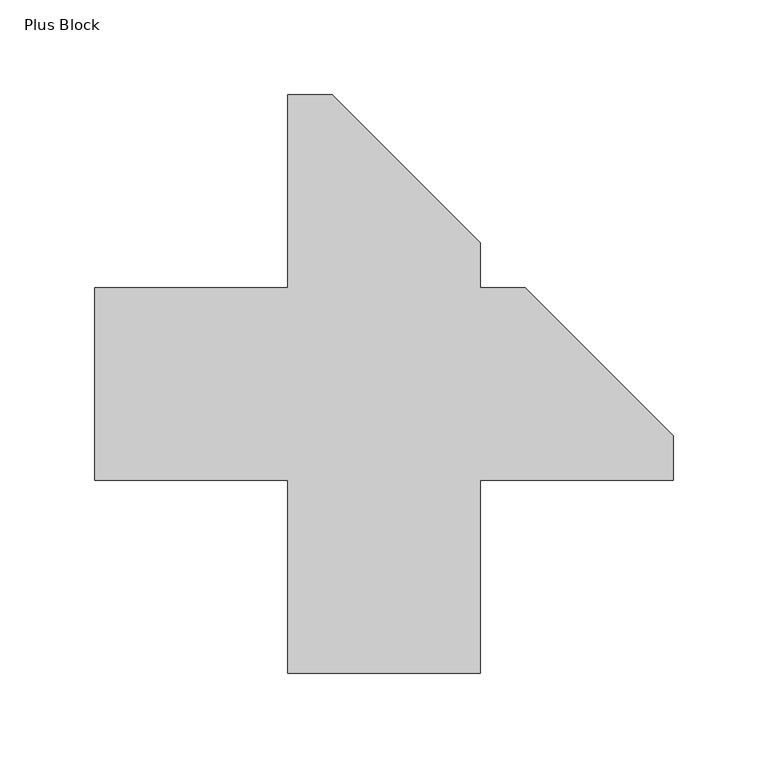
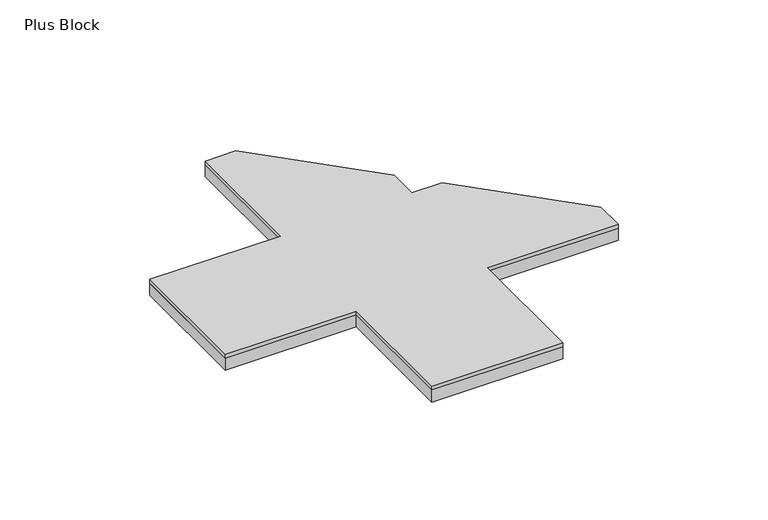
"""IFC4 building model written with IfcOpenShell, lengths in millimetres: proxy geometry, FilzFelt_Plus_Block : Plus Block."""

from ifc_helpers import new_model, si_unit, frame, origin, origin_with_axes, place, context, project, spatial, polyline, outline, extrude, source, transform, mapped, element, save


def plus_block_c293c2f2(model_context):
    return source(origin(), model_context, "Body", "SweptSolid", [
        extrude(outline(polyline([(152.5, -50.8333333), (50.8333333, -50.8333333), (50.8333333, -152.5), (-50.8333333, -152.5), (-50.8333333, -50.8333333), (-152.5, -50.8333333), (-152.5, 50.8333333), (-50.8333333, 50.8333333), (-50.8333333, 152.5), (-27.2541128, 152.5), (50.8333333, 74.4125539), (50.8333333, 50.8333333), (74.4125539, 50.8333333), (152.5, -27.2541128), (152.5, -50.8333333)])), frame((0.0, 0.0, 10.0210937), z_axis=(0.0, 0.0, 1.0), x_axis=(1.0, 0.0, 0.0)), (0.0, 0.0, 1.0), 2.9765625),
        extrude(outline(polyline([(-152.5, -50.8333333), (-152.5, 50.8333333), (-50.8333333, 50.8333333), (-50.8333333, 152.5), (-27.2541128, 152.5), (50.8333333, 74.4125539), (50.8333333, 50.8333333), (74.4125539, 50.8333333), (152.5, -27.2541128), (152.5, -50.8333333), (50.8333333, -50.8333333), (50.8333333, -152.5), (-50.8333333, -152.5), (-50.8333333, -50.8333333), (-152.5, -50.8333333)])), origin_with_axes(), (0.0, 0.0, 1.0), 10.0210938),
    ])


if __name__ == "__main__":
    model = new_model("IFC4")
    model_context = context("Model", 3, world=origin())
    ifc_project = project(units=[si_unit("LENGTHUNIT", "METRE", prefix="MILLI")], contexts=[model_context])
    site = spatial("IfcSite", under=ifc_project)
    building = spatial("IfcBuilding", under=site)
    placement = place(None, origin())
    plus_block_shape = plus_block_c293c2f2(model_context)
    element("IfcBuildingElementProxy", 1, Name="FilzFelt_Plus_Block : Plus Block", ObjectType="FilzFelt_Plus_Block : Plus Block", at=placement, inside=building, context=model_context, shape_type="MappedRepresentation", body=[
        mapped(plus_block_shape, transform((0.0, 0.0, 0.0), x_axis=(1.0, 0.0, 0.0), y_axis=(0.0, 1.0, 0.0), z_axis=(0.0, 0.0, 1.0))),
    ])
    save(model, "model.ifc")
